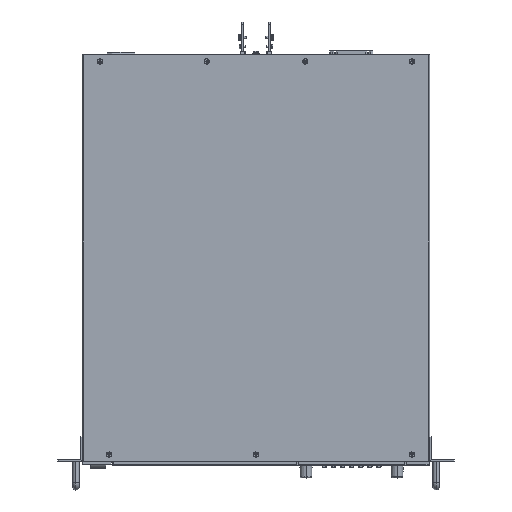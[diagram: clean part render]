
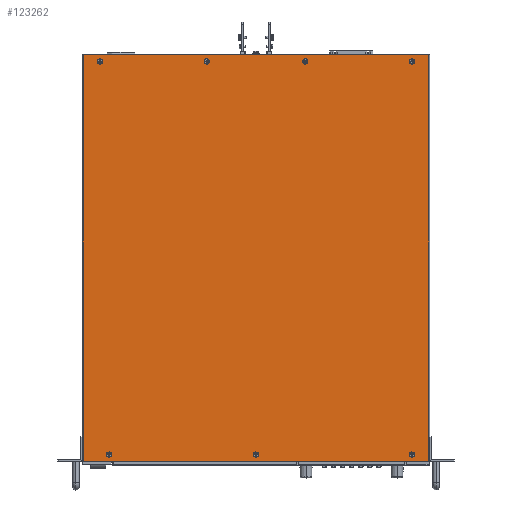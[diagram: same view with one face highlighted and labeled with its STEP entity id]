
A CAD part, top view. The second image highlights one B-rep face of the part: STEP entity #123262.
In plain terms, the highlighted planar face has unit normal (0, 0, 1).
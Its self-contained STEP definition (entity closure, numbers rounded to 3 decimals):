
#2743=DIRECTION('',(-1.,0.,0.));
#2744=VECTOR('',#2743,420.8);
#2745=CARTESIAN_POINT('',(210.4,493.8,43.));
#2746=LINE('',#2745,#2744);
#15819=DIRECTION('',(0.,1.,0.));
#15820=VECTOR('',#15819,495.);
#15821=CARTESIAN_POINT('',(210.4,-1.2,43.));
#15822=LINE('',#15821,#15820);
#15831=CARTESIAN_POINT('',(190.,485.8,43.));
#15832=DIRECTION('',(0.,0.,1.));
#15833=DIRECTION('',(-1.,0.,0.));
#15834=AXIS2_PLACEMENT_3D('',#15831,#15832,#15833);
#15836=CARTESIAN_POINT('',(190.,485.8,43.));
#15837=DIRECTION('',(0.,0.,1.));
#15838=DIRECTION('',(1.,0.,0.));
#15839=AXIS2_PLACEMENT_3D('',#15836,#15837,#15838);
#15841=CARTESIAN_POINT('',(-179.,6.8,43.));
#15842=DIRECTION('',(0.,0.,1.));
#15843=DIRECTION('',(-1.,0.,0.));
#15844=AXIS2_PLACEMENT_3D('',#15841,#15842,#15843);
#15846=CARTESIAN_POINT('',(-179.,6.8,43.));
#15847=DIRECTION('',(0.,0.,1.));
#15848=DIRECTION('',(1.,0.,0.));
#15849=AXIS2_PLACEMENT_3D('',#15846,#15847,#15848);
#15851=CARTESIAN_POINT('',(190.,6.8,43.));
#15852=DIRECTION('',(0.,0.,1.));
#15853=DIRECTION('',(-1.,0.,0.));
#15854=AXIS2_PLACEMENT_3D('',#15851,#15852,#15853);
#15856=CARTESIAN_POINT('',(190.,6.8,43.));
#15857=DIRECTION('',(0.,0.,1.));
#15858=DIRECTION('',(1.,0.,0.));
#15859=AXIS2_PLACEMENT_3D('',#15856,#15857,#15858);
#15861=CARTESIAN_POINT('',(0.,6.8,43.));
#15862=DIRECTION('',(0.,0.,1.));
#15863=DIRECTION('',(-1.,0.,0.));
#15864=AXIS2_PLACEMENT_3D('',#15861,#15862,#15863);
#15866=CARTESIAN_POINT('',(0.,6.8,43.));
#15867=DIRECTION('',(0.,0.,1.));
#15868=DIRECTION('',(1.,0.,0.));
#15869=AXIS2_PLACEMENT_3D('',#15866,#15867,#15868);
#15871=CARTESIAN_POINT('',(-60.,485.8,43.));
#15872=DIRECTION('',(0.,0.,1.));
#15873=DIRECTION('',(-1.,0.,0.));
#15874=AXIS2_PLACEMENT_3D('',#15871,#15872,#15873);
#15876=CARTESIAN_POINT('',(-60.,485.8,43.));
#15877=DIRECTION('',(0.,0.,1.));
#15878=DIRECTION('',(1.,0.,0.));
#15879=AXIS2_PLACEMENT_3D('',#15876,#15877,#15878);
#15881=CARTESIAN_POINT('',(60.,485.8,43.));
#15882=DIRECTION('',(0.,0.,1.));
#15883=DIRECTION('',(-1.,0.,0.));
#15884=AXIS2_PLACEMENT_3D('',#15881,#15882,#15883);
#15886=CARTESIAN_POINT('',(60.,485.8,43.));
#15887=DIRECTION('',(0.,0.,1.));
#15888=DIRECTION('',(1.,0.,0.));
#15889=AXIS2_PLACEMENT_3D('',#15886,#15887,#15888);
#15891=CARTESIAN_POINT('',(-190.,485.8,43.));
#15892=DIRECTION('',(0.,0.,1.));
#15893=DIRECTION('',(-1.,0.,0.));
#15894=AXIS2_PLACEMENT_3D('',#15891,#15892,#15893);
#15896=CARTESIAN_POINT('',(-190.,485.8,43.));
#15897=DIRECTION('',(0.,0.,1.));
#15898=DIRECTION('',(1.,0.,0.));
#15899=AXIS2_PLACEMENT_3D('',#15896,#15897,#15898);
#17181=DIRECTION('',(0.,-1.,0.));
#17182=VECTOR('',#17181,495.);
#17183=CARTESIAN_POINT('',(-210.4,493.8,43.));
#17184=LINE('',#17183,#17182);
#17185=DIRECTION('',(-1.,0.,0.));
#17186=VECTOR('',#17185,420.8);
#17187=CARTESIAN_POINT('',(210.4,-1.2,43.));
#17188=LINE('',#17187,#17186);
#99792=CARTESIAN_POINT('',(186.75,485.8,43.));
#99793=CARTESIAN_POINT('',(193.25,485.8,43.));
#99794=VERTEX_POINT('',#99792);
#99795=VERTEX_POINT('',#99793);
#99796=CARTESIAN_POINT('',(-182.25,6.8,43.));
#99797=CARTESIAN_POINT('',(-175.75,6.8,43.));
#99798=VERTEX_POINT('',#99796);
#99799=VERTEX_POINT('',#99797);
#99800=CARTESIAN_POINT('',(186.75,6.8,43.));
#99801=CARTESIAN_POINT('',(193.25,6.8,43.));
#99802=VERTEX_POINT('',#99800);
#99803=VERTEX_POINT('',#99801);
#99804=CARTESIAN_POINT('',(-3.25,6.8,43.));
#99805=CARTESIAN_POINT('',(3.25,6.8,43.));
#99806=VERTEX_POINT('',#99804);
#99807=VERTEX_POINT('',#99805);
#99808=CARTESIAN_POINT('',(-63.25,485.8,43.));
#99809=CARTESIAN_POINT('',(-56.75,485.8,43.));
#99810=VERTEX_POINT('',#99808);
#99811=VERTEX_POINT('',#99809);
#99812=CARTESIAN_POINT('',(56.75,485.8,43.));
#99813=CARTESIAN_POINT('',(63.25,485.8,43.));
#99814=VERTEX_POINT('',#99812);
#99815=VERTEX_POINT('',#99813);
#99816=CARTESIAN_POINT('',(-193.25,485.8,43.));
#99817=CARTESIAN_POINT('',(-186.75,485.8,43.));
#99818=VERTEX_POINT('',#99816);
#99819=VERTEX_POINT('',#99817);
#99820=CARTESIAN_POINT('',(210.4,493.8,43.));
#99821=CARTESIAN_POINT('',(-210.4,493.8,43.));
#99822=VERTEX_POINT('',#99820);
#99823=VERTEX_POINT('',#99821);
#102373=CARTESIAN_POINT('',(210.4,-1.2,43.));
#102374=CARTESIAN_POINT('',(-210.4,-1.2,43.));
#102375=VERTEX_POINT('',#102373);
#102376=VERTEX_POINT('',#102374);
#123207=CARTESIAN_POINT('',(0.,246.3,43.));
#123208=DIRECTION('',(0.,0.,1.));
#123209=DIRECTION('',(-1.,0.,0.));
#123210=AXIS2_PLACEMENT_3D('',#123207,#123208,#123209);
#123211=PLANE('',#123210);
#123213=ORIENTED_EDGE('',*,*,#123212,.F.);
#123214=ORIENTED_EDGE('',*,*,#108210,.F.);
#123215=ORIENTED_EDGE('',*,*,#123198,.F.);
#123217=ORIENTED_EDGE('',*,*,#123216,.T.);
#123218=EDGE_LOOP('',(#123213,#123214,#123215,#123217));
#123219=FACE_OUTER_BOUND('',#123218,.F.);
#123221=ORIENTED_EDGE('',*,*,#123220,.T.);
#123223=ORIENTED_EDGE('',*,*,#123222,.T.);
#123224=EDGE_LOOP('',(#123221,#123223));
#123225=FACE_BOUND('',#123224,.F.);
#123227=ORIENTED_EDGE('',*,*,#123226,.T.);
#123229=ORIENTED_EDGE('',*,*,#123228,.T.);
#123230=EDGE_LOOP('',(#123227,#123229));
#123231=FACE_BOUND('',#123230,.F.);
#123233=ORIENTED_EDGE('',*,*,#123232,.T.);
#123235=ORIENTED_EDGE('',*,*,#123234,.T.);
#123236=EDGE_LOOP('',(#123233,#123235));
#123237=FACE_BOUND('',#123236,.F.);
#123239=ORIENTED_EDGE('',*,*,#123238,.T.);
#123241=ORIENTED_EDGE('',*,*,#123240,.T.);
#123242=EDGE_LOOP('',(#123239,#123241));
#123243=FACE_BOUND('',#123242,.F.);
#123245=ORIENTED_EDGE('',*,*,#123244,.T.);
#123247=ORIENTED_EDGE('',*,*,#123246,.T.);
#123248=EDGE_LOOP('',(#123245,#123247));
#123249=FACE_BOUND('',#123248,.F.);
#123251=ORIENTED_EDGE('',*,*,#123250,.T.);
#123253=ORIENTED_EDGE('',*,*,#123252,.T.);
#123254=EDGE_LOOP('',(#123251,#123253));
#123255=FACE_BOUND('',#123254,.F.);
#123257=ORIENTED_EDGE('',*,*,#123256,.T.);
#123259=ORIENTED_EDGE('',*,*,#123258,.T.);
#123260=EDGE_LOOP('',(#123257,#123259));
#123261=FACE_BOUND('',#123260,.F.);
#123262=ADVANCED_FACE('',(#123219,#123225,#123231,#123237,#123243,#123249,
#123255,#123261),#123211,.T.);
#15835=CIRCLE('',#15834,3.25);
#15840=CIRCLE('',#15839,3.25);
#15845=CIRCLE('',#15844,3.25);
#15850=CIRCLE('',#15849,3.25);
#15855=CIRCLE('',#15854,3.25);
#15860=CIRCLE('',#15859,3.25);
#15865=CIRCLE('',#15864,3.25);
#15870=CIRCLE('',#15869,3.25);
#15875=CIRCLE('',#15874,3.25);
#15880=CIRCLE('',#15879,3.25);
#15885=CIRCLE('',#15884,3.25);
#15890=CIRCLE('',#15889,3.25);
#15895=CIRCLE('',#15894,3.25);
#15900=CIRCLE('',#15899,3.25);
#108210=EDGE_CURVE('',#99822,#99823,#2746,.T.);
#123198=EDGE_CURVE('',#102375,#99822,#15822,.T.);
#123212=EDGE_CURVE('',#99823,#102376,#17184,.T.);
#123216=EDGE_CURVE('',#102375,#102376,#17188,.T.);
#123220=EDGE_CURVE('',#99798,#99799,#15845,.T.);
#123222=EDGE_CURVE('',#99799,#99798,#15850,.T.);
#123226=EDGE_CURVE('',#99802,#99803,#15855,.T.);
#123228=EDGE_CURVE('',#99803,#99802,#15860,.T.);
#123232=EDGE_CURVE('',#99806,#99807,#15865,.T.);
#123234=EDGE_CURVE('',#99807,#99806,#15870,.T.);
#123238=EDGE_CURVE('',#99810,#99811,#15875,.T.);
#123240=EDGE_CURVE('',#99811,#99810,#15880,.T.);
#123244=EDGE_CURVE('',#99814,#99815,#15885,.T.);
#123246=EDGE_CURVE('',#99815,#99814,#15890,.T.);
#123250=EDGE_CURVE('',#99818,#99819,#15895,.T.);
#123252=EDGE_CURVE('',#99819,#99818,#15900,.T.);
#123256=EDGE_CURVE('',#99794,#99795,#15835,.T.);
#123258=EDGE_CURVE('',#99795,#99794,#15840,.T.);
